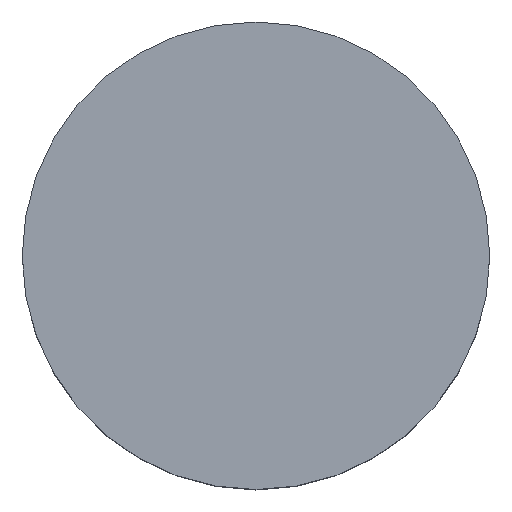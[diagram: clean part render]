
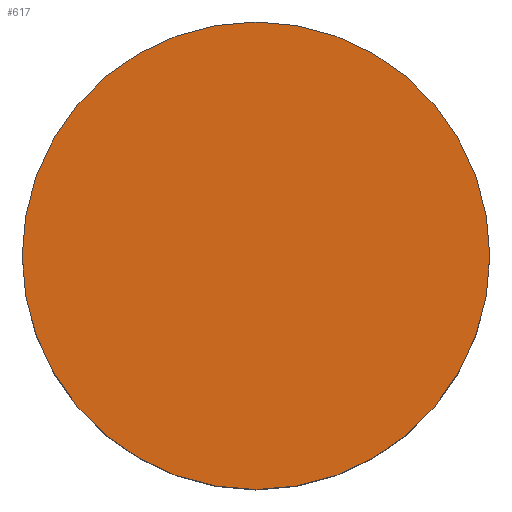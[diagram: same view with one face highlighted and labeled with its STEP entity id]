
A CAD part, top view. The second image highlights one B-rep face of the part: STEP entity #617.
In plain terms, the highlighted planar face has unit normal (0, 0, 1).
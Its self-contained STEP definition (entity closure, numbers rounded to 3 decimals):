
#568 = VERTEX_POINT ( 'NONE', #4602 ) ;
#575 = ORIENTED_EDGE ( 'NONE', *, *, #576, .T. ) ;
#576 = EDGE_CURVE ( 'NONE', #622, #568, #4563, .T. ) ;
#617 = ADVANCED_FACE ( 'NONE', ( #4598 ), #4494, .T. ) ;
#619 = EDGE_CURVE ( 'NONE', #568, #622, #4607, .T. ) ;
#622 = VERTEX_POINT ( 'NONE', #4570 ) ;
#644 = ORIENTED_EDGE ( 'NONE', *, *, #619, .T. ) ;
#656 = EDGE_LOOP ( 'NONE', ( #575, #644 ) ) ;
#4490 = DIRECTION ( 'NONE',  ( 1., 0., 0. ) ) ;
#4491 = DIRECTION ( 'NONE',  ( 0., 0., 1. ) ) ;
#4492 = CARTESIAN_POINT ( 'NONE',  ( 0., 0., 30. ) ) ;
#4493 = AXIS2_PLACEMENT_3D ( 'NONE', #4492, #4491, #4490 ) ;
#4494 = PLANE ( 'NONE',  #4493 ) ;
#4528 = CARTESIAN_POINT ( 'NONE',  ( 0., 0., 30. ) ) ;
#4560 = DIRECTION ( 'NONE',  ( 1., 0., 0. ) ) ;
#4561 = DIRECTION ( 'NONE',  ( 0., 0., 1. ) ) ;
#4562 = AXIS2_PLACEMENT_3D ( 'NONE', #4528, #4561, #4560 ) ;
#4563 = CIRCLE ( 'NONE', #4562, 30.15 ) ;
#4570 = CARTESIAN_POINT ( 'NONE',  ( -30.15, 0., 30. ) ) ;
#4598 = FACE_OUTER_BOUND ( 'NONE', #656, .T. ) ;
#4602 = CARTESIAN_POINT ( 'NONE',  ( 30.15, 0., 30. ) ) ;
#4603 = DIRECTION ( 'NONE',  ( 1., 0., 0. ) ) ;
#4604 = DIRECTION ( 'NONE',  ( 0., 0., 1. ) ) ;
#4605 = CARTESIAN_POINT ( 'NONE',  ( 0., 0., 30. ) ) ;
#4606 = AXIS2_PLACEMENT_3D ( 'NONE', #4605, #4604, #4603 ) ;
#4607 = CIRCLE ( 'NONE', #4606, 30.15 ) ;
